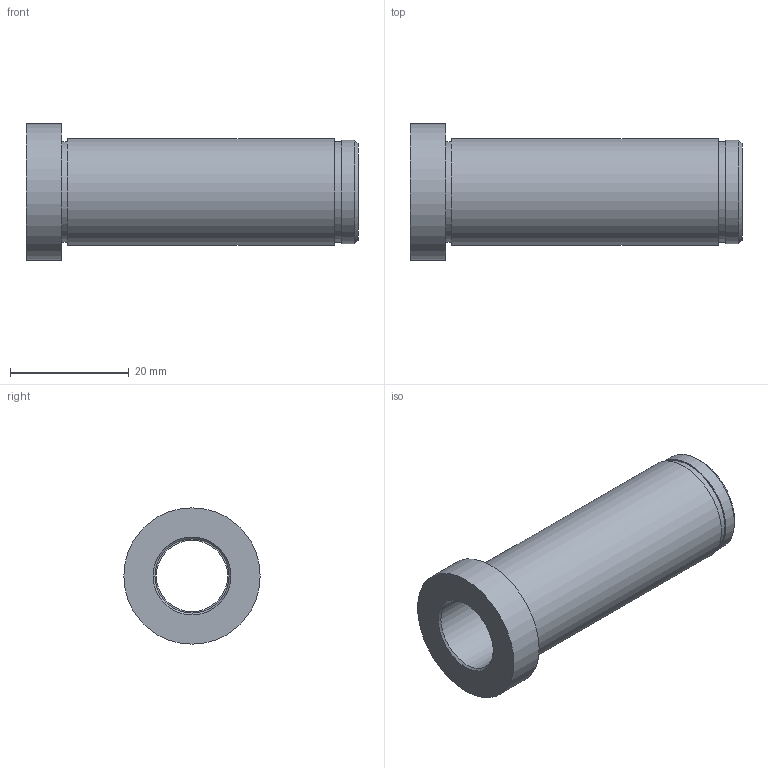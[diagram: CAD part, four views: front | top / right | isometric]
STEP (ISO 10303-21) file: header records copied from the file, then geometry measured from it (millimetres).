
FILE_DESCRIPTION(/* description */ ('Impex Ready, www.impex-ready.pl'),/* implementation_level */ '2;1');
FILE_NAME(/* name */ 'C:\Users\VIKKY\Nextcloud\SM\projekt 10 - części na stronę internetową\Pliki_3D_new\307 Tuleje BG05\307 BG05_STEP\BG05.012056.ipt.step',/* time_stamp */ '2021-12-21T17:20:51+01:00',/* author */ ('SM'),/* organization */ (''),/* preprocessor_version */ 'ST-DEVELOPER v18.1',/* originating_system */ 'Autodesk Inventor 2021',/* authorisation */ '');
FILE_SCHEMA (('AUTOMOTIVE_DESIGN { 1 0 10303 214 3 1 1 }'));
Length unit declared in the file: millimetre
Products named in the file (1): BG05.012056
Bounding box: 56 x 23 x 23 mm (x, y, z)
Volume: 8458.6 mm3; surface area: 6061.9 mm2
Topology: 1 solids, 1 shells, 17 faces, 30 edges, 20 vertices
Faces by surface type: plane 7, cylinder 7, cone 3
Full cylindrical faces by diameter (mm): 12 x1, 12.5 x1, 17 x2, 17.5 x1, 18 x1, 23 x1
Entity records: 504 total; most frequent: DIRECTION 86, CARTESIAN_POINT 68, ORIENTED_EDGE 60, AXIS2_PLACEMENT_3D 38, EDGE_CURVE 30, EDGE_LOOP 24, CIRCLE 20, VERTEX_POINT 20
